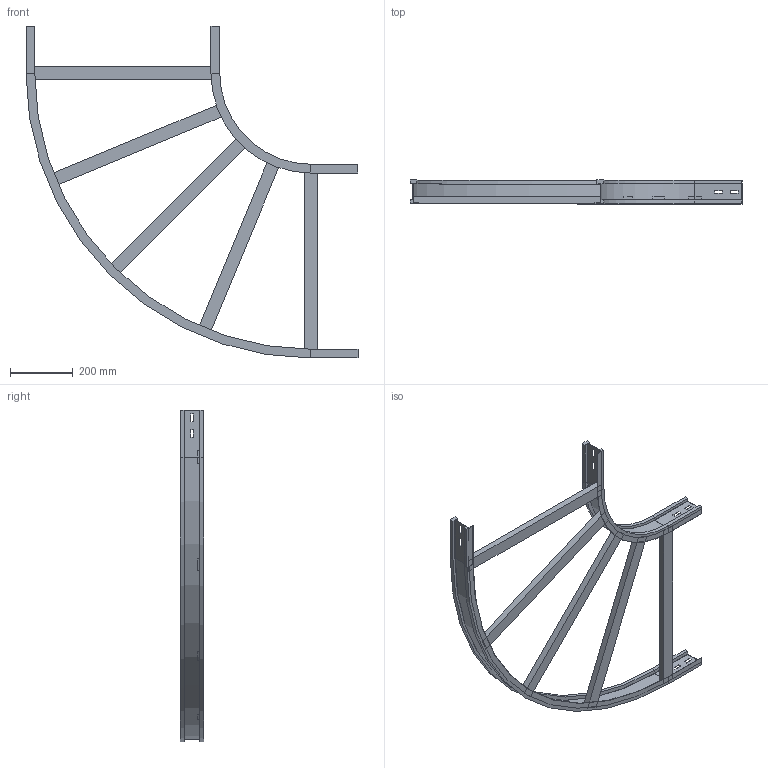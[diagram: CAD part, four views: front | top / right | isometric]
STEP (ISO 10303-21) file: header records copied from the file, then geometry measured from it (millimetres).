
FILE_DESCRIPTION (( 'STEP AP214' ), '1' );
FILE_NAME ('10S3C600.step', '2025-02-21T16:11:24', ( '' ), ( '' ), 'SwSTEP 2.0', 'SolidWorks 2023', '' );
FILE_SCHEMA (( 'AUTOMOTIVE_DESIGN' ));
Length unit declared in the file: millimetre
Products named in the file (4): LONGH.ESTERNO 90°_H75_R300+600; TRAVERSINO_600; LONGH.INTERNO 90°_H75_R300; 10S3C600
Assembly tree (7 placements, depth 2):
  10S3C600
    LONGH.INTERNO 90°_H75_R300
    LONGH.ESTERNO 90°_H75_R300+600
    TRAVERSINO_600  x5
Bounding box: 1059 x 75 x 1059 mm (x, y, z)
Volume: 3639611.9 mm3; surface area: 982256 mm2
Topology: 7 solids, 7 shells, 138 faces, 324 edges, 200 vertices
Faces by surface type: plane 126, cylinder 12
Entity records: 3405 total; most frequent: CARTESIAN_POINT 568, ORIENTED_EDGE 552, DIRECTION 548, EDGE_CURVE 276, LINE 252, VECTOR 252, VERTEX_POINT 168, AXIS2_PLACEMENT_3D 148
